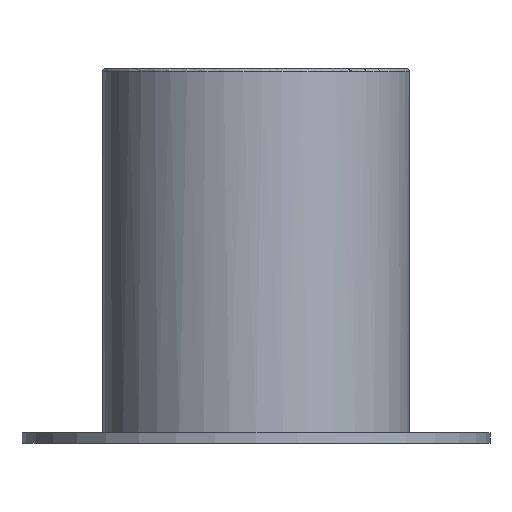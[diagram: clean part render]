
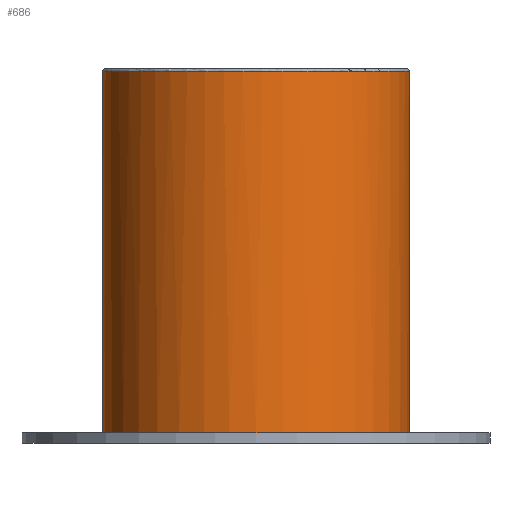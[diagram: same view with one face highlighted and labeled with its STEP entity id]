
A CAD part, left-side view. The second image highlights one B-rep face of the part: STEP entity #686.
In plain terms, the highlighted cylindrical face has radius 29.502 mm (diameter 59.003 mm), a partial arc.
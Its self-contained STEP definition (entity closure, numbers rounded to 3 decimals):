
#26=B_SPLINE_CURVE_WITH_KNOTS('',3,(#1192,#1193,#1194,#1195,#1196,#1197,
#1198,#1199),.UNSPECIFIED.,.F.,.F.,(4,1,1,1,1,4),(0.,0.2,0.4,0.6,0.8,1.),
 .UNSPECIFIED.);
#42=CYLINDRICAL_SURFACE('',#766,29.502);
#96=FACE_OUTER_BOUND('',#140,.T.);
#140=EDGE_LOOP('',(#554,#555,#556,#557));
#184=LINE('',#1303,#224);
#185=LINE('',#1304,#225);
#224=VECTOR('',#945,304.8);
#225=VECTOR('',#946,304.8);
#274=CIRCLE('',#767,29.502);
#322=VERTEX_POINT('',#1144);
#323=VERTEX_POINT('',#1191);
#332=VERTEX_POINT('',#1300);
#333=VERTEX_POINT('',#1301);
#402=EDGE_CURVE('',#323,#322,#26,.T.);
#414=EDGE_CURVE('',#332,#333,#274,.T.);
#415=EDGE_CURVE('',#323,#332,#184,.T.);
#416=EDGE_CURVE('',#333,#322,#185,.T.);
#554=ORIENTED_EDGE('',*,*,#414,.F.);
#555=ORIENTED_EDGE('',*,*,#415,.F.);
#556=ORIENTED_EDGE('',*,*,#402,.T.);
#557=ORIENTED_EDGE('',*,*,#416,.F.);
#686=ADVANCED_FACE('',(#96),#42,.T.);
#766=AXIS2_PLACEMENT_3D('',#1299,#941,#942);
#767=AXIS2_PLACEMENT_3D('',#1302,#943,#944);
#941=DIRECTION('center_axis',(0.,0.,1.));
#942=DIRECTION('ref_axis',(0.,1.,0.));
#943=DIRECTION('center_axis',(0.,0.,-1.));
#944=DIRECTION('ref_axis',(0.,1.,0.));
#945=DIRECTION('',(0.,0.,-1.));
#946=DIRECTION('',(0.,0.,1.));
#1144=CARTESIAN_POINT('',(0.,-29.502,71.496));
#1191=CARTESIAN_POINT('',(0.,29.502,71.496));
#1192=CARTESIAN_POINT('Ctrl Pts',(0.,29.502,
71.496));
#1193=CARTESIAN_POINT('Ctrl Pts',(6.338,29.72,71.496));
#1194=CARTESIAN_POINT('Ctrl Pts',(18.445,25.387,71.496));
#1195=CARTESIAN_POINT('Ctrl Pts',(29.98,9.771,71.496));
#1196=CARTESIAN_POINT('Ctrl Pts',(29.98,-9.771,71.496));
#1197=CARTESIAN_POINT('Ctrl Pts',(18.445,-25.387,71.496));
#1198=CARTESIAN_POINT('Ctrl Pts',(6.338,-29.72,71.496));
#1199=CARTESIAN_POINT('Ctrl Pts',(0.,-29.502,
71.496));
#1299=CARTESIAN_POINT('Origin',(0.,0.,1792.792));
#1300=CARTESIAN_POINT('',(0.,29.502,2.));
#1301=CARTESIAN_POINT('',(0.,-29.502,2.));
#1302=CARTESIAN_POINT('Origin',(0.,0.,2.));
#1303=CARTESIAN_POINT('',(0.,29.502,71.496));
#1304=CARTESIAN_POINT('',(0.,-29.502,2.));
